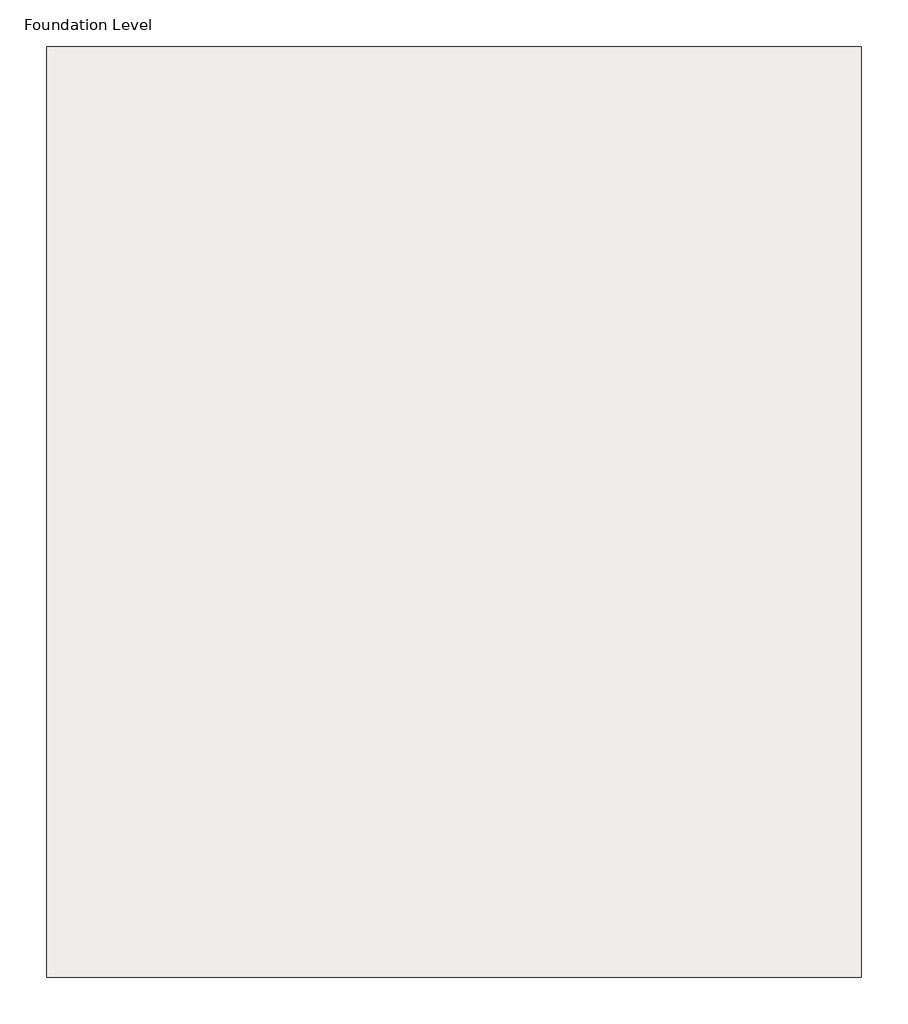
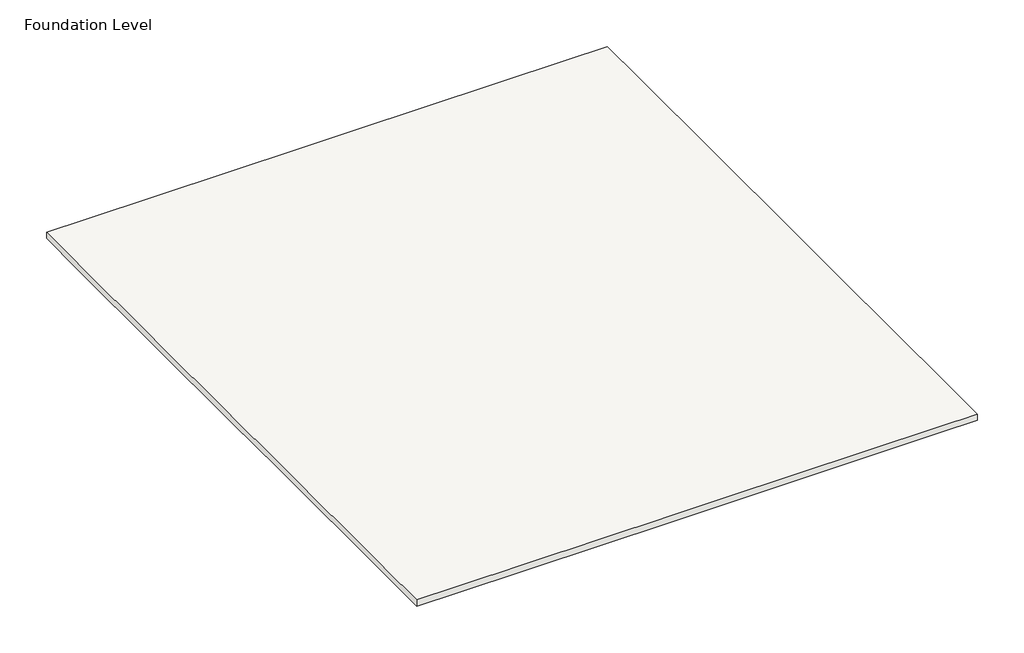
# One storey: 1 slab.
"""IFC4 building model written with IfcOpenShell, lengths in millimetres."""

from ifc_helpers import new_model, si_unit, origin, place, context, project, spatial, faceted_brep, element, save

model = new_model("IFC4")

# Units and contexts
model_context = context("Model", 3, world=origin())
ifc_project = project(units=[si_unit("LENGTHUNIT", "METRE", prefix="MILLI")], contexts=[model_context])

# Site, building, storey
site = spatial("IfcSite", under=ifc_project)
building = spatial("IfcBuilding", under=site)
storey = spatial("IfcBuildingStorey", under=building, Name="Foundation Level", Elevation=-1828.8)

# Slab
placement = place(None, origin())
element("IfcSlab", 1, ObjectType="150mm Foundation Slab", at=placement, inside=storey, context=model_context, shape_type="Brep", body=[
    faceted_brep([(-13641.0467956, 11548.6404637, -1978.8), (-13641.0467956, 10348.6404637, -1978.8), (-13641.0467956, 4223.6404637, -1978.8), (-13641.0467956, 2423.6404637, -1978.8), (-13641.0467956, -1872.3595363, -1978.8), (-13641.0467956, -3072.3595363, -1978.8), (-14541.0467956, -3072.3595363, -1978.8), (-19437.0467956, -3072.3595363, -1978.8), (-20637.0467956, -3072.3595363, -1978.8), (-25533.0467956, -3072.3595363, -1978.8), (-26433.0467956, -3072.3595363, -1978.8), (-26433.0467956, -1872.3595363, -1978.8), (-26433.0467956, 2423.6404637, -1978.8), (-26433.0467956, 4223.6404637, -1978.8), (-26433.0467956, 10348.6404637, -1978.8), (-26433.0467956, 11548.6404637, -1978.8), (-25533.0467956, 11548.6404637, -1978.8), (-20637.0467956, 11548.6404637, -1978.8), (-19437.0467956, 11548.6404637, -1978.8), (-14541.0467956, 11548.6404637, -1978.8), (-13641.0467956, 11548.6404637, -1828.8), (-14541.0467956, 11548.6404637, -1828.8), (-19437.0467956, 11548.6404637, -1828.8), (-20637.0467956, 11548.6404637, -1828.8), (-25533.0467956, 11548.6404637, -1828.8), (-26433.0467956, 11548.6404637, -1828.8), (-26433.0467956, 10348.6404637, -1828.8), (-26433.0467956, 4223.6404637, -1828.8), (-26433.0467956, 2423.6404637, -1828.8), (-26433.0467956, -1872.3595363, -1828.8), (-26433.0467956, -3072.3595363, -1828.8), (-25533.0467956, -3072.3595363, -1828.8), (-20637.0467956, -3072.3595363, -1828.8), (-19437.0467956, -3072.3595363, -1828.8), (-14541.0467956, -3072.3595363, -1828.8), (-13641.0467956, -3072.3595363, -1828.8), (-13641.0467956, -1872.3595363, -1828.8), (-13641.0467956, 2423.6404637, -1828.8), (-13641.0467956, 4223.6404637, -1828.8), (-13641.0467956, 10348.6404637, -1828.8)], [[[0, 1, 2, 3, 4, 5, 6, 7, 8, 9, 10, 11, 12, 13, 14, 15, 16, 17, 18, 19]], [[20, 21, 22, 23, 24, 25, 26, 27, 28, 29, 30, 31, 32, 33, 34, 35, 36, 37, 38, 39]], [[5, 4, 3, 2, 1, 0, 20, 39, 38, 37, 36, 35]], [[10, 9, 8, 7, 6, 5, 35, 34, 33, 32, 31, 30]], [[15, 14, 13, 12, 11, 10, 30, 29, 28, 27, 26, 25]], [[0, 19, 18, 17, 16, 15, 25, 24, 23, 22, 21, 20]]]),
])

save(model, "model.ifc")
